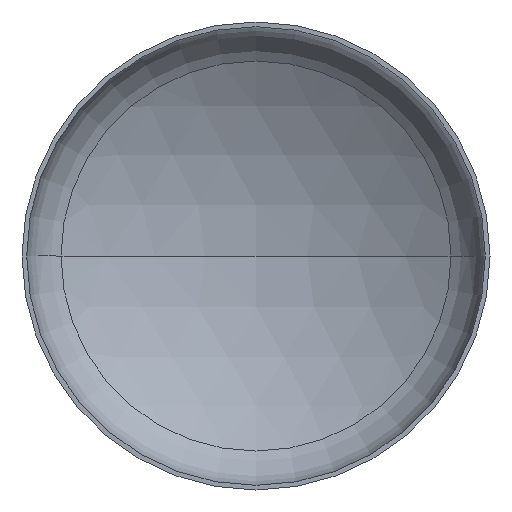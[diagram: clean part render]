
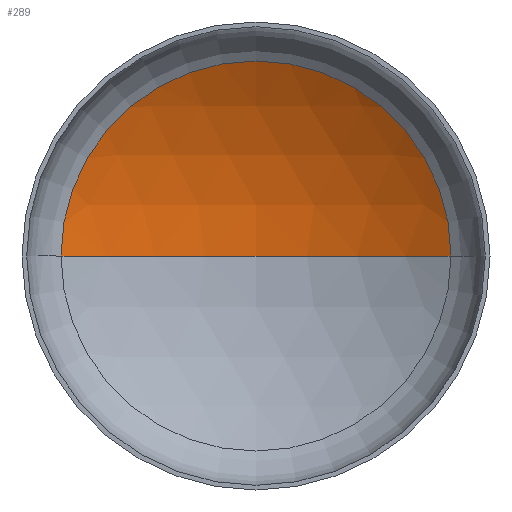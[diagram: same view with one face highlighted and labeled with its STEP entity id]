
A CAD part, front view. The second image highlights one B-rep face of the part: STEP entity #289.
In plain terms, the highlighted spherical face has radius 1360 mm.
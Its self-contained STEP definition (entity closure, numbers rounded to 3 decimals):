
#22 = AXIS2_PLACEMENT_3D ( 'NONE', #153, #397, #130 ) ;
#32 = AXIS2_PLACEMENT_3D ( 'NONE', #167, #168, #393 ) ;
#35 = AXIS2_PLACEMENT_3D ( 'NONE', #260, #259, #276 ) ;
#40 = AXIS2_PLACEMENT_3D ( 'NONE', #163, #162, #156 ) ;
#77 = ORIENTED_EDGE ( 'NONE', *, *, #225, .F. ) ;
#129 = VERTEX_POINT ( 'NONE', #312 ) ;
#130 = DIRECTION ( 'NONE',  ( -1., 0., 0. ) ) ;
#141 = ORIENTED_EDGE ( 'NONE', *, *, #214, .T. ) ;
#153 = CARTESIAN_POINT ( 'NONE',  ( 0., -883.973, 0. ) ) ;
#156 = DIRECTION ( 'NONE',  ( -1., 0., 0. ) ) ;
#162 = DIRECTION ( 'NONE',  ( 0., 0., -1. ) ) ;
#163 = CARTESIAN_POINT ( 'NONE',  ( 0., -883.973, 0. ) ) ;
#167 = CARTESIAN_POINT ( 'NONE',  ( 0., -883.973, 0. ) ) ;
#168 = DIRECTION ( 'NONE',  ( 0., 0., 1. ) ) ;
#171 = FACE_OUTER_BOUND ( 'NONE', #309, .T. ) ;
#188 = EDGE_CURVE ( 'NONE', #201, #129, #391, .T. ) ;
#190 = CARTESIAN_POINT ( 'NONE',  ( 0., 476.027, 0. ) ) ;
#201 = VERTEX_POINT ( 'NONE', #213 ) ;
#205 = ORIENTED_EDGE ( 'NONE', *, *, #188, .T. ) ;
#209 = VERTEX_POINT ( 'NONE', #190 ) ;
#211 = CIRCLE ( 'NONE', #40, 1360. ) ;
#213 = CARTESIAN_POINT ( 'NONE',  ( 708.436, 276.939, 0. ) ) ;
#214 = EDGE_CURVE ( 'NONE', #209, #201, #211, .T. ) ;
#225 = EDGE_CURVE ( 'NONE', #209, #129, #387, .T. ) ;
#259 = DIRECTION ( 'NONE',  ( 0., -1., 0. ) ) ;
#260 = CARTESIAN_POINT ( 'NONE',  ( 0., 276.939, 0. ) ) ;
#276 = DIRECTION ( 'NONE',  ( 1., 0., 0. ) ) ;
#289 = ADVANCED_FACE ( 'NONE', ( #171 ), #379, .F. ) ;
#309 = EDGE_LOOP ( 'NONE', ( #77, #141, #205 ) ) ;
#312 = CARTESIAN_POINT ( 'NONE',  ( -708.436, 276.939, 0. ) ) ;
#379 = SPHERICAL_SURFACE ( 'NONE', #22, 1360. ) ;
#387 = CIRCLE ( 'NONE', #32, 1360. ) ;
#391 = CIRCLE ( 'NONE', #35, 708.436 ) ;
#393 = DIRECTION ( 'NONE',  ( 1., 0., 0. ) ) ;
#397 = DIRECTION ( 'NONE',  ( 0., 0., -1. ) ) ;
